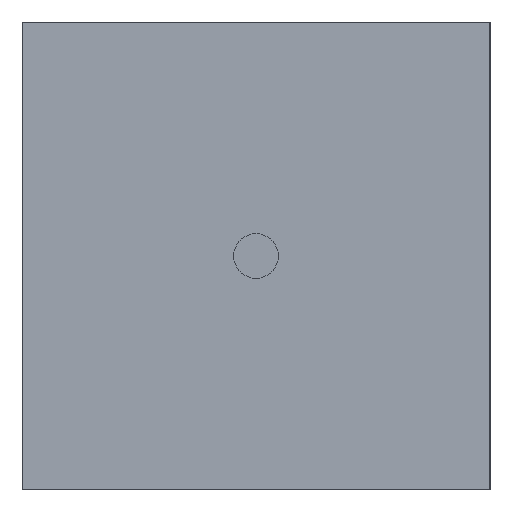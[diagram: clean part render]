
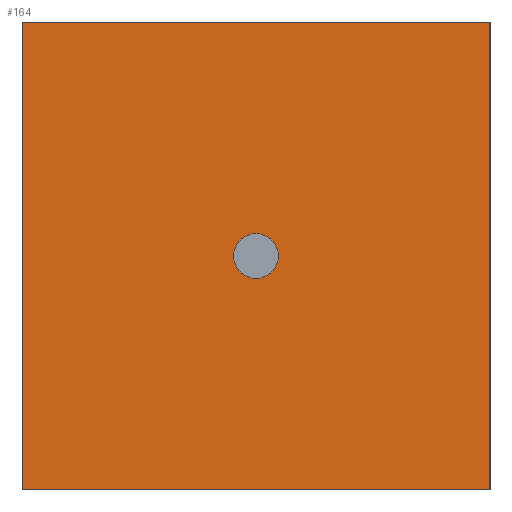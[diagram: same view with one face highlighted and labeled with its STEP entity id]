
A CAD part, left-side view. The second image highlights one B-rep face of the part: STEP entity #164.
In plain terms, the highlighted planar face has unit normal (-1, 0, 0).
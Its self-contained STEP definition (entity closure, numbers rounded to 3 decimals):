
#29=FACE_OUTER_BOUND('',#41,.T.);
#41=EDGE_LOOP('',(#122,#123,#124,#125));
#50=LINE('',#241,#62);
#54=LINE('',#249,#66);
#57=LINE('',#255,#69);
#60=LINE('',#260,#72);
#62=VECTOR('',#195,9.53);
#66=VECTOR('',#201,9.53);
#69=VECTOR('',#206,9.53);
#72=VECTOR('',#211,9.53);
#74=VERTEX_POINT('',#239);
#75=VERTEX_POINT('',#240);
#78=VERTEX_POINT('',#248);
#80=VERTEX_POINT('',#254);
#86=EDGE_CURVE('',#74,#75,#50,.T.);
#90=EDGE_CURVE('',#78,#74,#54,.T.);
#93=EDGE_CURVE('',#80,#78,#57,.T.);
#96=EDGE_CURVE('',#75,#80,#60,.T.);
#122=ORIENTED_EDGE('',*,*,#96,.F.);
#123=ORIENTED_EDGE('',*,*,#86,.F.);
#124=ORIENTED_EDGE('',*,*,#90,.F.);
#125=ORIENTED_EDGE('',*,*,#93,.F.);
#139=PLANE('',#180);
#164=ADVANCED_FACE('',(#29),#139,.F.);
#180=AXIS2_PLACEMENT_3D('',#263,#215,#216);
#195=DIRECTION('',(0.,0.,-1.));
#201=DIRECTION('',(0.,-1.,0.));
#206=DIRECTION('',(0.,0.,1.));
#211=DIRECTION('',(0.,1.,0.));
#215=DIRECTION('center_axis',(1.,0.,0.));
#216=DIRECTION('ref_axis',(0.,0.,-1.));
#239=CARTESIAN_POINT('',(0.,0.,9.53));
#240=CARTESIAN_POINT('',(0.,0.,0.));
#241=CARTESIAN_POINT('',(0.,0.,9.53));
#248=CARTESIAN_POINT('',(0.,9.53,9.53));
#249=CARTESIAN_POINT('',(0.,9.53,9.53));
#254=CARTESIAN_POINT('',(0.,9.53,0.));
#255=CARTESIAN_POINT('',(0.,9.53,0.));
#260=CARTESIAN_POINT('',(0.,0.,0.));
#263=CARTESIAN_POINT('Origin',(0.,4.765,4.765));
